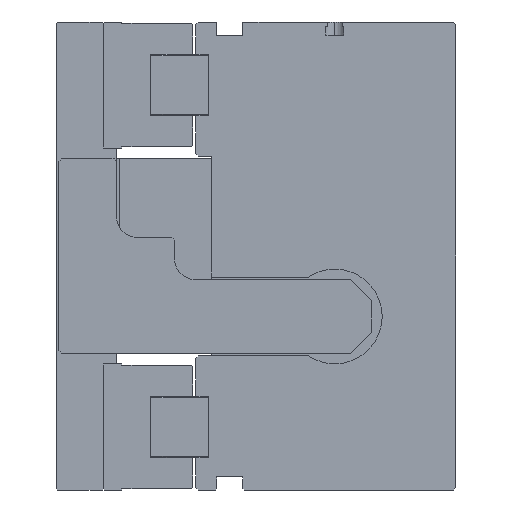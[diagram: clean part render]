
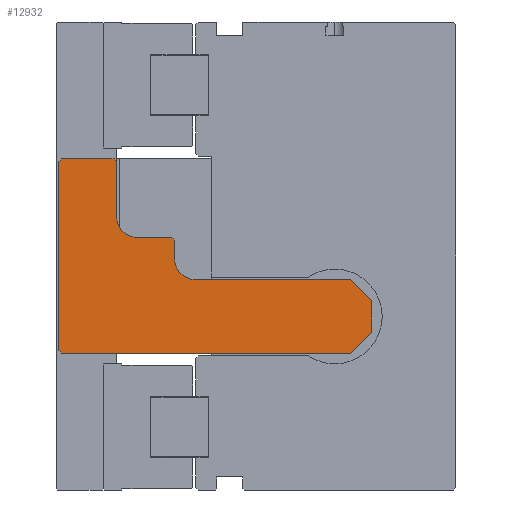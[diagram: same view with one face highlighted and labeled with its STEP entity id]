
A CAD part, left-side view. The second image highlights one B-rep face of the part: STEP entity #12932.
In plain terms, the highlighted planar face has unit normal (-1, 0, 0) as drawn and (1, 0, 0) by its records, which use the part's own axes.
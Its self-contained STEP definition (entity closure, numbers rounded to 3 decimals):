
#236 = LINE ( 'NONE', #30554, #41371 ) ;
#297 = CARTESIAN_POINT ( 'NONE',  ( 0., -119., 17. ) ) ;
#1309 = VERTEX_POINT ( 'NONE', #8667 ) ;
#1572 = ORIENTED_EDGE ( 'NONE', *, *, #38731, .F. ) ;
#2862 = CARTESIAN_POINT ( 'NONE',  ( 0., -43., -7. ) ) ;
#2869 = ORIENTED_EDGE ( 'NONE', *, *, #22587, .T. ) ;
#3086 = ORIENTED_EDGE ( 'NONE', *, *, #33929, .T. ) ;
#3221 = VERTEX_POINT ( 'NONE', #42654 ) ;
#4208 = CARTESIAN_POINT ( 'NONE',  ( 0., -119., 29. ) ) ;
#4535 = DIRECTION ( 'NONE',  ( 0., -0.707, -0.707 ) ) ;
#4559 = ORIENTED_EDGE ( 'NONE', *, *, #25574, .T. ) ;
#5806 = LINE ( 'NONE', #46750, #36367 ) ;
#5901 = DIRECTION ( 'NONE',  ( 0., 0.707, -0.707 ) ) ;
#6113 = ORIENTED_EDGE ( 'NONE', *, *, #34937, .T. ) ;
#6175 = CARTESIAN_POINT ( 'NONE',  ( 0., -1., -37. ) ) ;
#6741 = LINE ( 'NONE', #8409, #18657 ) ;
#7687 = CARTESIAN_POINT ( 'NONE',  ( 0., -52., -7. ) ) ;
#8168 = DIRECTION ( 'NONE',  ( 0., -1., 0. ) ) ;
#8409 = CARTESIAN_POINT ( 'NONE',  ( 0., -52., 9. ) ) ;
#8568 = CARTESIAN_POINT ( 'NONE',  ( 0., -111., 37. ) ) ;
#8667 = CARTESIAN_POINT ( 'NONE',  ( 0., -21., -37. ) ) ;
#8692 = VECTOR ( 'NONE', #15456, 1000. ) ;
#8989 = ORIENTED_EDGE ( 'NONE', *, *, #15610, .T. ) ;
#9153 = VECTOR ( 'NONE', #8168, 1000. ) ;
#9465 = VECTOR ( 'NONE', #5901, 1000. ) ;
#9852 = CARTESIAN_POINT ( 'NONE',  ( 0., -1., 37. ) ) ;
#9967 = CARTESIAN_POINT ( 'NONE',  ( 0., -22., -15. ) ) ;
#11537 = VECTOR ( 'NONE', #36867, 1000. ) ;
#11637 = DIRECTION ( 'NONE',  ( 0., -0.707, 0.707 ) ) ;
#11919 = VERTEX_POINT ( 'NONE', #6175 ) ;
#12221 = VERTEX_POINT ( 'NONE', #27953 ) ;
#12932 = ADVANCED_FACE ( 'NONE', ( #50485 ), #42998, .T. ) ;
#13675 = CARTESIAN_POINT ( 'NONE',  ( 0., -30., -15. ) ) ;
#13786 = LINE ( 'NONE', #27176, #32423 ) ;
#14067 = LINE ( 'NONE', #33584, #44536 ) ;
#15200 = CARTESIAN_POINT ( 'NONE',  ( 0., -111., 37. ) ) ;
#15423 = CARTESIAN_POINT ( 'NONE',  ( 0., 0., -36. ) ) ;
#15456 = DIRECTION ( 'NONE',  ( 0., 0., -1. ) ) ;
#15610 = EDGE_CURVE ( 'NONE', #18538, #47673, #46015, .T. ) ;
#16464 = DIRECTION ( 'NONE',  ( 0., 1., 0. ) ) ;
#17698 = DIRECTION ( 'NONE',  ( 0., 0., -1. ) ) ;
#17850 = VECTOR ( 'NONE', #45747, 1000. ) ;
#18538 = VERTEX_POINT ( 'NONE', #27877 ) ;
#18657 = VECTOR ( 'NONE', #16464, 1000. ) ;
#18790 = DIRECTION ( 'NONE',  ( 0., 0., -1. ) ) ;
#18978 = VERTEX_POINT ( 'NONE', #297 ) ;
#19198 = DIRECTION ( 'NONE',  ( 1., 0., 0. ) ) ;
#19269 = EDGE_CURVE ( 'NONE', #47673, #38320, #42946, .T. ) ;
#19988 = ORIENTED_EDGE ( 'NONE', *, *, #45274, .T. ) ;
#20853 = VERTEX_POINT ( 'NONE', #37816 ) ;
#20953 = ORIENTED_EDGE ( 'NONE', *, *, #40043, .F. ) ;
#21861 = DIRECTION ( 'NONE',  ( -1., 0., 0. ) ) ;
#22138 = CARTESIAN_POINT ( 'NONE',  ( 0., -111., 9. ) ) ;
#22203 = CIRCLE ( 'NONE', #38337, 8. ) ;
#22525 = ORIENTED_EDGE ( 'NONE', *, *, #34325, .T. ) ;
#22587 = EDGE_CURVE ( 'NONE', #23287, #18538, #25333, .T. ) ;
#22801 = LINE ( 'NONE', #8568, #42708 ) ;
#23287 = VERTEX_POINT ( 'NONE', #2862 ) ;
#23881 = EDGE_CURVE ( 'NONE', #49896, #51413, #31569, .T. ) ;
#24017 = CARTESIAN_POINT ( 'NONE',  ( 0., -52., 37. ) ) ;
#25333 = LINE ( 'NONE', #7687, #37163 ) ;
#25574 = EDGE_CURVE ( 'NONE', #1309, #11919, #14067, .T. ) ;
#25612 = DIRECTION ( 'NONE',  ( 0., 1., 0. ) ) ;
#26019 = ORIENTED_EDGE ( 'NONE', *, *, #26805, .F. ) ;
#26805 = EDGE_CURVE ( 'NONE', #49896, #3221, #30150, .T. ) ;
#27176 = CARTESIAN_POINT ( 'NONE',  ( 0., 0., -36. ) ) ;
#27307 = EDGE_CURVE ( 'NONE', #40555, #18978, #236, .T. ) ;
#27533 = EDGE_CURVE ( 'NONE', #1309, #38320, #5806, .T. ) ;
#27877 = CARTESIAN_POINT ( 'NONE',  ( 0., -30., -7. ) ) ;
#27953 = CARTESIAN_POINT ( 'NONE',  ( 0., -44., 1. ) ) ;
#30150 = LINE ( 'NONE', #33423, #42008 ) ;
#30554 = CARTESIAN_POINT ( 'NONE',  ( 0., -119., 1. ) ) ;
#30616 = LINE ( 'NONE', #47116, #50497 ) ;
#30863 = LINE ( 'NONE', #34135, #17850 ) ;
#31175 = DIRECTION ( 'NONE',  ( 0., -0.707, -0.707 ) ) ;
#31460 = ORIENTED_EDGE ( 'NONE', *, *, #27533, .F. ) ;
#31474 = LINE ( 'NONE', #44695, #11537 ) ;
#31569 = LINE ( 'NONE', #24017, #9153 ) ;
#32423 = VECTOR ( 'NONE', #31175, 1000. ) ;
#33423 = CARTESIAN_POINT ( 'NONE',  ( 0., 0., 36. ) ) ;
#33584 = CARTESIAN_POINT ( 'NONE',  ( 0., -52., -37. ) ) ;
#33929 = EDGE_CURVE ( 'NONE', #45011, #12221, #22203, .T. ) ;
#34135 = CARTESIAN_POINT ( 'NONE',  ( 0., 0., 1. ) ) ;
#34325 = EDGE_CURVE ( 'NONE', #51413, #40555, #22801, .T. ) ;
#34548 = EDGE_CURVE ( 'NONE', #37618, #3221, #30863, .T. ) ;
#34937 = EDGE_CURVE ( 'NONE', #12221, #20853, #31474, .T. ) ;
#35554 = DIRECTION ( 'NONE',  ( 0., 1., 0. ) ) ;
#36060 = EDGE_LOOP ( 'NONE', ( #26019, #39046, #22525, #39725, #19988, #46059, #3086, #6113, #1572, #2869, #8989, #40158, #31460, #4559, #20953, #38944 ) ) ;
#36367 = VECTOR ( 'NONE', #11637, 1000. ) ;
#36867 = DIRECTION ( 'NONE',  ( 0., 0., -1. ) ) ;
#37163 = VECTOR ( 'NONE', #35554, 1000. ) ;
#37450 = DIRECTION ( 'NONE',  ( 0., 0.707, -0.707 ) ) ;
#37618 = VERTEX_POINT ( 'NONE', #15423 ) ;
#37816 = CARTESIAN_POINT ( 'NONE',  ( 0., -44., -6. ) ) ;
#38320 = VERTEX_POINT ( 'NONE', #39927 ) ;
#38337 = AXIS2_PLACEMENT_3D ( 'NONE', #45637, #21861, #49610 ) ;
#38731 = EDGE_CURVE ( 'NONE', #23287, #20853, #30616, .T. ) ;
#38944 = ORIENTED_EDGE ( 'NONE', *, *, #34548, .T. ) ;
#38987 = CARTESIAN_POINT ( 'NONE',  ( 0., -52., 1. ) ) ;
#39046 = ORIENTED_EDGE ( 'NONE', *, *, #23881, .T. ) ;
#39075 = CARTESIAN_POINT ( 'NONE',  ( 0., -22., 1. ) ) ;
#39725 = ORIENTED_EDGE ( 'NONE', *, *, #27307, .T. ) ;
#39927 = CARTESIAN_POINT ( 'NONE',  ( 0., -22., -36. ) ) ;
#40043 = EDGE_CURVE ( 'NONE', #37618, #11919, #13786, .T. ) ;
#40158 = ORIENTED_EDGE ( 'NONE', *, *, #19269, .T. ) ;
#40555 = VERTEX_POINT ( 'NONE', #4208 ) ;
#40864 = VERTEX_POINT ( 'NONE', #22138 ) ;
#41371 = VECTOR ( 'NONE', #18790, 1000. ) ;
#41506 = DIRECTION ( 'NONE',  ( -1., 0., 0. ) ) ;
#42008 = VECTOR ( 'NONE', #37450, 1000. ) ;
#42654 = CARTESIAN_POINT ( 'NONE',  ( 0., 0., 36. ) ) ;
#42708 = VECTOR ( 'NONE', #4535, 1000. ) ;
#42946 = LINE ( 'NONE', #39075, #8692 ) ;
#42998 = PLANE ( 'NONE',  #45182 ) ;
#44536 = VECTOR ( 'NONE', #25612, 1000. ) ;
#44695 = CARTESIAN_POINT ( 'NONE',  ( 0., -44., 1. ) ) ;
#45011 = VERTEX_POINT ( 'NONE', #47005 ) ;
#45182 = AXIS2_PLACEMENT_3D ( 'NONE', #38987, #19198, #46935 ) ;
#45274 = EDGE_CURVE ( 'NONE', #18978, #40864, #50505, .T. ) ;
#45597 = CARTESIAN_POINT ( 'NONE',  ( 0., -119., 17. ) ) ;
#45637 = CARTESIAN_POINT ( 'NONE',  ( 0., -52., 1. ) ) ;
#45747 = DIRECTION ( 'NONE',  ( 0., 0., 1. ) ) ;
#46015 = CIRCLE ( 'NONE', #46522, 8. ) ;
#46059 = ORIENTED_EDGE ( 'NONE', *, *, #48885, .T. ) ;
#46522 = AXIS2_PLACEMENT_3D ( 'NONE', #13675, #41506, #17698 ) ;
#46750 = CARTESIAN_POINT ( 'NONE',  ( 0., -21., -37. ) ) ;
#46935 = DIRECTION ( 'NONE',  ( 0., 0., -1. ) ) ;
#47005 = CARTESIAN_POINT ( 'NONE',  ( 0., -52., 9. ) ) ;
#47116 = CARTESIAN_POINT ( 'NONE',  ( 0., -43., -7. ) ) ;
#47673 = VERTEX_POINT ( 'NONE', #9967 ) ;
#48885 = EDGE_CURVE ( 'NONE', #40864, #45011, #6741, .T. ) ;
#49610 = DIRECTION ( 'NONE',  ( 0., 0., -1. ) ) ;
#49896 = VERTEX_POINT ( 'NONE', #9852 ) ;
#50485 = FACE_OUTER_BOUND ( 'NONE', #36060, .T. ) ;
#50497 = VECTOR ( 'NONE', #51129, 1000. ) ;
#50505 = LINE ( 'NONE', #45597, #9465 ) ;
#51129 = DIRECTION ( 'NONE',  ( 0., -0.707, 0.707 ) ) ;
#51413 = VERTEX_POINT ( 'NONE', #15200 ) ;
